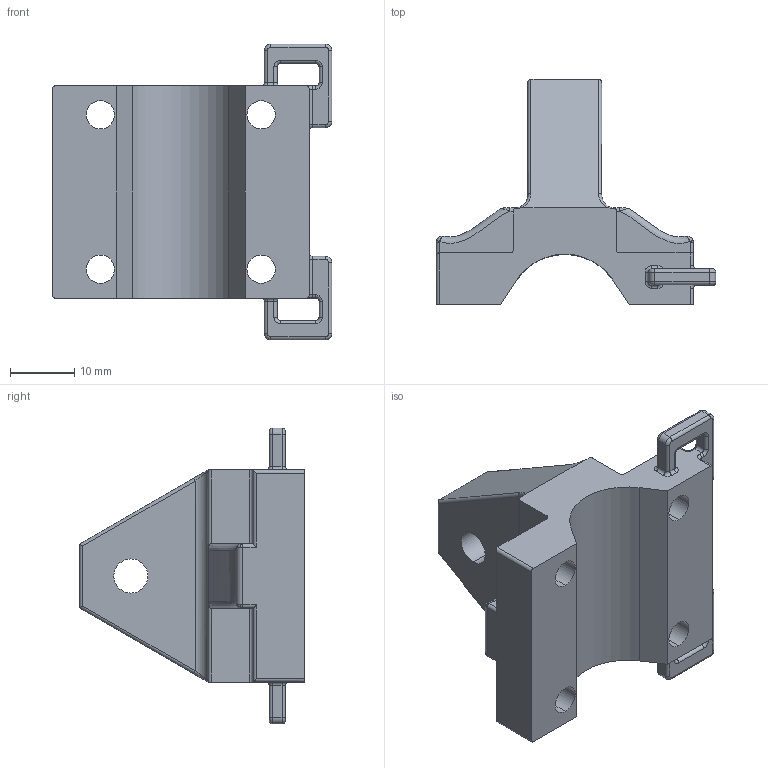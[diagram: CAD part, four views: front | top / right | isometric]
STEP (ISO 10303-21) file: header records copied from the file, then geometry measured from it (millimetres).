
FILE_DESCRIPTION (( 'STEP AP203' ), '1' );
FILE_NAME ('douille_back.STEP', '2020-03-27T11:10:14', ( '' ), ( '' ), 'SwSTEP 2.0', 'SolidWorks 2020', '' );
FILE_SCHEMA (( 'CONFIG_CONTROL_DESIGN' ));
Length unit declared in the file: millimetre
Products named in the file (1): douille_back
Bounding box: 43.5 x 35 x 46 mm (x, y, z)
Volume: 15978.5 mm3; surface area: 6626.8 mm2
Topology: 1 solids, 1 shells, 234 faces, 578 edges, 340 vertices
Faces by surface type: cylinder 113, plane 49, torus 48, bspline 24
Entity records: 8021 total; most frequent: CARTESIAN_POINT 2493, DIRECTION 1184, ORIENTED_EDGE 1140, EDGE_CURVE 570, AXIS2_PLACEMENT_3D 471, VERTEX_POINT 340, CIRCLE 260, EDGE_LOOP 250
